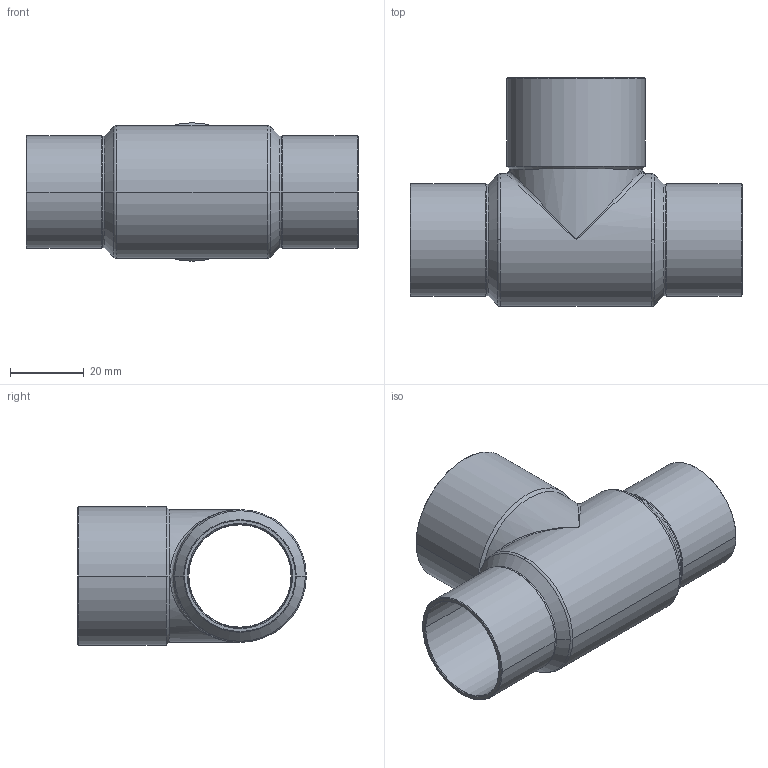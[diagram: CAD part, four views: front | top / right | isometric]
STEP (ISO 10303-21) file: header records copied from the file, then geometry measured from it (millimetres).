
FILE_DESCRIPTION((''),'2;1');
FILE_NAME('G:\Technics\CAD\Bauteile\15130\15130283528.stp','2005-11-03T13:42:49',('boden'),(''),'Autodesk Inventor 8','Autodesk Inventor 8','');
FILE_SCHEMA(('AUTOMOTIVE_DESIGN { 1 0 10303 214 1 1 1 1 }'));
Length unit declared in the file: millimetre
Products named in the file (1): 15130283528
Bounding box: 90 x 62 x 37.55 mm (x, y, z)
Volume: 14161.3 mm3; surface area: 23931.9 mm2
Topology: 1 solids, 1 shells, 72 faces, 170 edges, 93 vertices
Faces by surface type: cone 32, cylinder 28, bspline 5, torus 4, plane 3
Entity records: 2439 total; most frequent: CARTESIAN_POINT 749, DIRECTION 394, ORIENTED_EDGE 328, AXIS2_PLACEMENT_3D 166, EDGE_CURVE 164, VERTEX_POINT 93, CIRCLE 88, EDGE_LOOP 75
